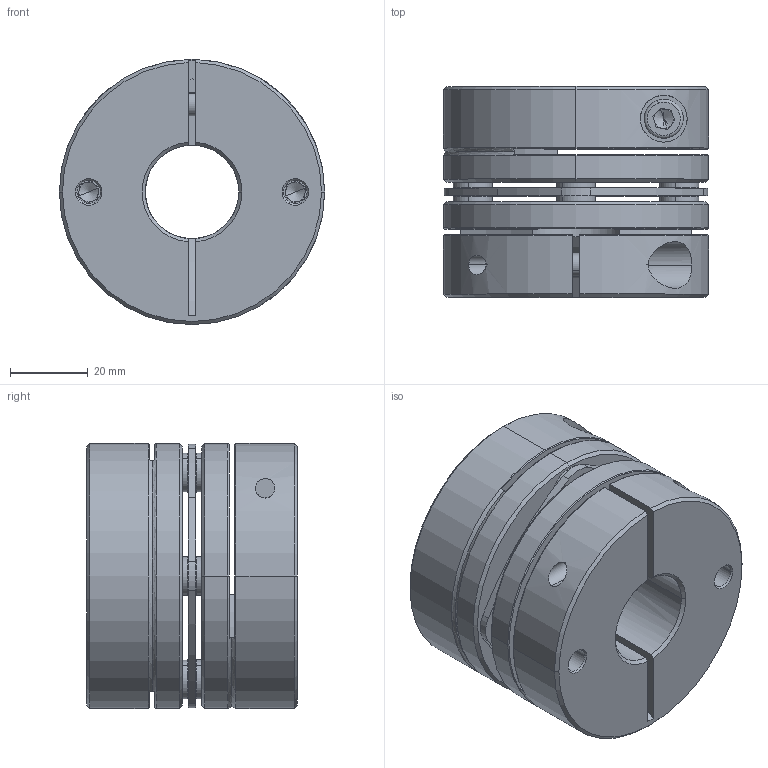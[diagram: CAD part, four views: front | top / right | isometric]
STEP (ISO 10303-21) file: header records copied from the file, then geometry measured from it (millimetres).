
FILE_DESCRIPTION (( 'STEP AP203' ), '1' );
FILE_NAME ('LD1-D68-24-24.STEP', '2021-10-26T08:00:26', ( '' ), ( '' ), 'SwSTEP 2.0', 'SolidWorks 2018', '' );
FILE_SCHEMA (( 'CONFIG_CONTROL_DESIGN' ));
Length unit declared in the file: millimetre
Products named in the file (2): LD1-D68-24-24; 錨璃101^LD1-D68
Assembly tree (1 placements, depth 2):
  LD1-D68-24-24
    錨璃101^LD1-D68
Bounding box: 68 x 54 x 68 mm (x, y, z)
Volume: 144730.6 mm3; surface area: 46287.4 mm2
Topology: 1 solids, 15 shells, 441 faces, 1047 edges, 642 vertices
Faces by surface type: cylinder 161, plane 136, cone 122, torus 22
Entity records: 13321 total; most frequent: CARTESIAN_POINT 2590, DIRECTION 2405, ORIENTED_EDGE 2062, EDGE_CURVE 1031, AXIS2_PLACEMENT_3D 977, VERTEX_POINT 642, CIRCLE 532, EDGE_LOOP 521
